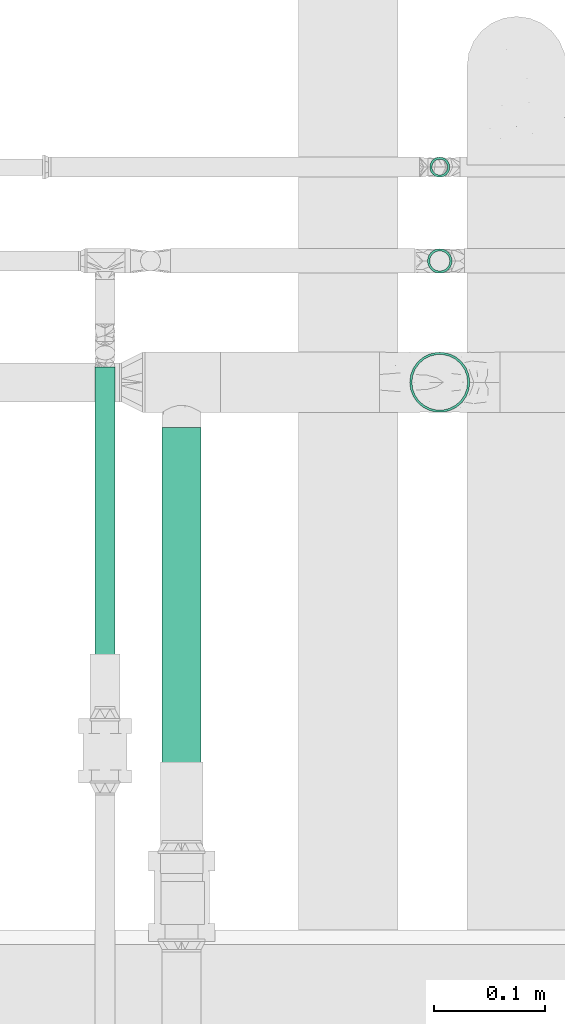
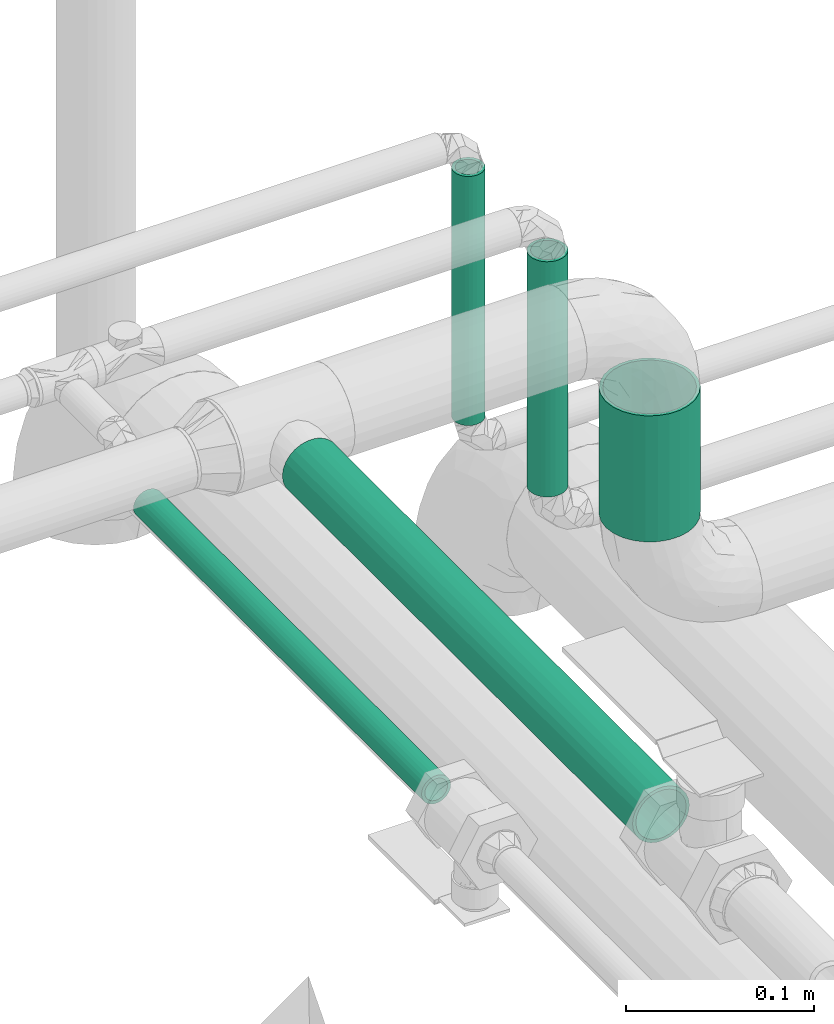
# One storey, part 64 of 156: 5 flow segments.
"""IFC2X3 building model written with IfcOpenShell, lengths in millimetres."""

from ifc_helpers import new_model, entity, si_unit, converted_unit, derived_unit, direction, frame, origin_with_axes, origin_2d_with_axis, place, context, subcontext, project, spatial, hollow_circle, extrude, source, transform, mapped, type_object, element, save


model = new_model("IFC2X3")

# Units and contexts
model_context = context("Model", 3, precision=0.01, world=frame((0.0, 4.29681676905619e-09, 0.0)), true_north=direction((4.01073788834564e-13, 1.0)))
plan_context = context("Plan", 3, precision=0.01, world=frame((0.0, 4.29681676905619e-09, 0.0)), true_north=direction((4.01073788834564e-13, 1.0)))
body_context = subcontext(model_context, "Body", "Model", "MODEL_VIEW")
ifc_project = project(units=[converted_unit("PLANEANGLEUNIT", "DEGREE", entity("IfcPositiveLengthMeasure", 0.0174532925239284), si_unit("PLANEANGLEUNIT", "RADIAN"), dimensions=[0, 0, 0, 0, 0, 0, 0]), si_unit("AREAUNIT", "SQUARE_METRE"), si_unit("LENGTHUNIT", "METRE", prefix="MILLI"), si_unit("MASSUNIT", "GRAM", prefix="KILO"), si_unit("POWERUNIT", "WATT"), si_unit("PRESSUREUNIT", "PASCAL", prefix="KILO"), si_unit("FORCEUNIT", "NEWTON", prefix="KILO"), si_unit("ELECTRICVOLTAGEUNIT", "VOLT"), si_unit("ELECTRICCURRENTUNIT", "AMPERE"), si_unit("THERMODYNAMICTEMPERATUREUNIT", "DEGREE_CELSIUS"), si_unit("TIMEUNIT", "SECOND"), si_unit("VOLUMEUNIT", "CUBIC_METRE"), derived_unit("LINEARVELOCITYUNIT", [(si_unit("LENGTHUNIT", "METRE"), 1), (si_unit("TIMEUNIT", "SECOND"), -1)]), derived_unit("VOLUMETRICFLOWRATEUNIT", [(si_unit("VOLUMEUNIT", "CUBIC_METRE"), 1), (si_unit("TIMEUNIT", "SECOND"), -1)]), derived_unit("THERMALTRANSMITTANCEUNIT", [(si_unit("POWERUNIT", "WATT"), 1), (si_unit("THERMODYNAMICTEMPERATUREUNIT", "KELVIN"), -1), (si_unit("AREAUNIT", "SQUARE_METRE"), -1)]), derived_unit("SOUNDPRESSUREUNIT", [(si_unit("PRESSUREUNIT", "PASCAL"), 1)])], contexts=[model_context, plan_context])

# Site, building, storey
site_placement = place(None, frame((0.0, -4.29681676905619e-09, 0.0), z_axis=(0.0, 0.0, 1.0), x_axis=(1.0, 0.0, 0.0)))
site = spatial("IfcSite", under=ifc_project, at=site_placement, CompositionType="ELEMENT")
building_placement = place(site_placement, frame((0.0, 4.29681676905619e-09, 0.0), z_axis=(0.0, 0.0, 1.0), x_axis=(1.0, 0.0, 0.0)))
building = spatial("IfcBuilding", under=site, at=building_placement, Name="mc-building", CompositionType="ELEMENT")
storey_placement = place(building_placement, frame((0.0, 0.0, 205200.0), z_axis=(0.0, 0.0, 1.0), x_axis=(1.0, 0.0, 0.0)))
storey = spatial("IfcBuildingStorey", under=building, at=storey_placement, Name="Nivå D + 1,2 m", CompositionType="ELEMENT", Elevation=205200.0)

# Flow segments
pipe_segment_type = type_object("IfcPipeSegmentType", Name="Kobberrør", PredefinedType="RIGIDSEGMENT")
shared_shape_1 = source(origin_with_axes(), body_context, "Body", "SweptSolid", [
    extrude(hollow_circle(Radius=27.0, WallThickness=2.0, at=origin_2d_with_axis()), frame((0.0, 0.0, 0.0), z_axis=(1.0, 0.0, 0.0), x_axis=(0.0, 1.0, 0.0)), (0.0, 0.0, 1.0), 82.0),
])
flow_segment_1_placement = place(storey_placement, frame((326966.13637, 463284.5375, 4264.0), z_axis=(0.0, -1.0, 0.0), x_axis=(0.0, 0.0, -1.0)))
element("IfcFlowSegment", 1, at=flow_segment_1_placement, inside=storey, type_object=pipe_segment_type, Name="Kobberrør", context=body_context, shape_type="MappedRepresentation", body=[
    mapped(shared_shape_1, transform((0.0, 0.0, 0.0), scale=1.0)),
])
shared_shape_2 = source(origin_with_axes(), body_context, "Body", "SweptSolid", [
    extrude(hollow_circle(Radius=9.0, WallThickness=2.0, at=origin_2d_with_axis()), frame((0.0, 0.0, 0.0), z_axis=(1.0, 0.0, 0.0), x_axis=(0.0, 1.0, 0.0)), (0.0, 0.0, 1.0), 307.0),
])
flow_segment_2_placement = place(storey_placement, frame((326665.49724, 462991.3125, 4285.29988999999), z_axis=(0.0, 0.0, 1.0), x_axis=(0.0, 1.0, 0.0)))
element("IfcFlowSegment", 2, at=flow_segment_2_placement, inside=storey, type_object=pipe_segment_type, Name="Kobberrør", context=body_context, shape_type="MappedRepresentation", body=[
    mapped(shared_shape_2, transform((0.0, 0.0, 0.0), scale=1.0)),
])
shared_shape_3 = source(origin_with_axes(), body_context, "Body", "SweptSolid", [
    extrude(hollow_circle(Radius=11.0, WallThickness=2.0, at=origin_2d_with_axis()), frame((0.0, 0.0, 0.0), z_axis=(1.0, 0.0, 0.0), x_axis=(0.0, 1.0, 0.0)), (0.0, 0.0, 1.0), 153.0),
])
flow_segment_3_placement = place(storey_placement, frame((326966.13637, 463393.4875, 4287.0), z_axis=(0.0, -1.0, 0.0), x_axis=(0.0, 0.0, -1.0)))
element("IfcFlowSegment", 3, at=flow_segment_3_placement, inside=storey, type_object=pipe_segment_type, Name="Kobberrør", context=body_context, shape_type="MappedRepresentation", body=[
    mapped(shared_shape_3, transform((0.0, 0.0, 0.0), scale=1.0)),
])
shared_shape_4 = source(origin_with_axes(), body_context, "Body", "SweptSolid", [
    extrude(hollow_circle(Radius=9.0, WallThickness=2.0, at=origin_2d_with_axis()), frame((0.0, 0.0, 0.0), z_axis=(1.0, 0.0, 0.0), x_axis=(0.0, 1.0, 0.0)), (0.0, 0.0, 1.0), 162.0),
])
flow_segment_4_placement = place(storey_placement, frame((326966.13637, 463477.7375, 4290.0), z_axis=(1.0, 0.0, 0.0), x_axis=(0.0, 0.0, -1.0)))
element("IfcFlowSegment", 4, at=flow_segment_4_placement, inside=storey, type_object=pipe_segment_type, Name="Kobberrør", context=body_context, shape_type="MappedRepresentation", body=[
    mapped(shared_shape_4, transform((0.0, 0.0, 0.0), scale=1.0)),
])
shared_shape_5 = source(origin_with_axes(), body_context, "Body", "SweptSolid", [
    extrude(hollow_circle(Radius=17.5, WallThickness=2.0, at=origin_2d_with_axis()), frame((0.0, 0.0, 0.0), z_axis=(1.0, 0.0, 0.0), x_axis=(0.0, 1.0, 0.0)), (0.0, 0.0, 1.0), 373.1),
])
flow_segment_5_placement = place(storey_placement, frame((326734.3046, 463244.0375, 4318.0), z_axis=(0.0, 0.0, 1.0), x_axis=(0.0, -1.0, 0.0)))
element("IfcFlowSegment", 5, at=flow_segment_5_placement, inside=storey, type_object=pipe_segment_type, Name="Kobberrør", context=body_context, shape_type="MappedRepresentation", body=[
    mapped(shared_shape_5, transform((0.0, 0.0, 0.0), scale=1.0)),
])

save(model, "model.ifc")
